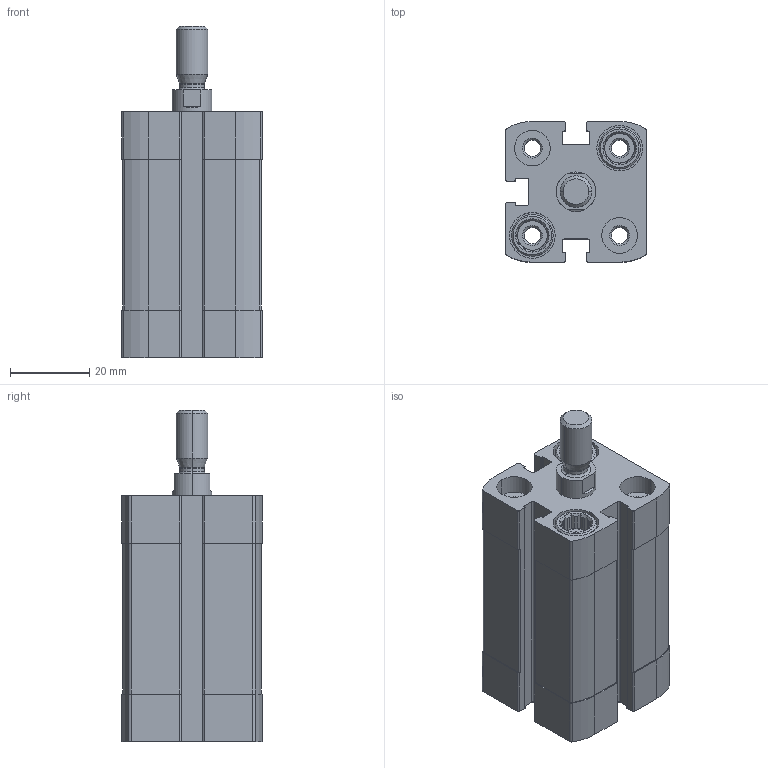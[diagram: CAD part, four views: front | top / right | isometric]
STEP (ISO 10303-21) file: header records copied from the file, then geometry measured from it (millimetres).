
FILE_DESCRIPTION (( 'STEP AP203' ), '1' );
FILE_NAME ('CCN20-25M.STEP', '2017-03-28T17:05:44', ( '' ), ( '' ), 'SwSTEP 2.0', 'SolidWorks 2016', '' );
FILE_SCHEMA (( 'CONFIG_CONTROL_DESIGN' ));
Length unit declared in the file: millimetre
Products named in the file (3): CCN25--(KS); CCN20-25M; CCN25---(Z)
Assembly tree (2 placements, depth 2):
  CCN20-25M
    CCN25---(Z)
    CCN25--(KS)
Bounding box: 35.5 x 35.5 x 83.5 mm (x, y, z)
Volume: 57961.3 mm3; surface area: 25041.2 mm2
Topology: 2 solids, 2 shells, 409 faces, 1084 edges, 710 vertices
Faces by surface type: plane 231, cylinder 134, cone 40, bspline 4
Entity records: 13233 total; most frequent: CARTESIAN_POINT 2568, DIRECTION 2222, ORIENTED_EDGE 2168, EDGE_CURVE 1084, AXIS2_PLACEMENT_3D 828, VERTEX_POINT 710, VECTOR 566, LINE 566
